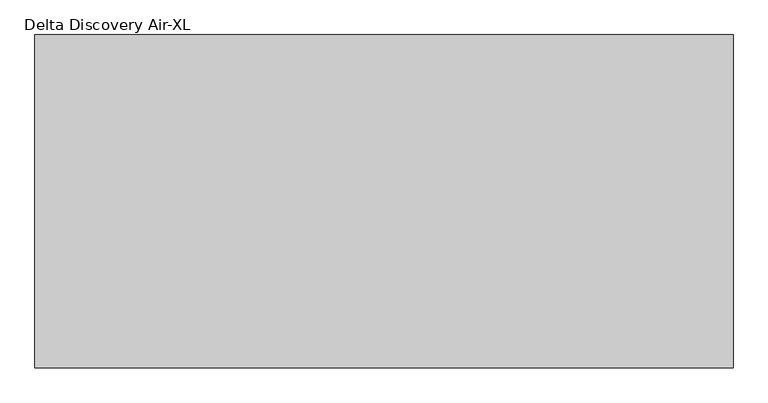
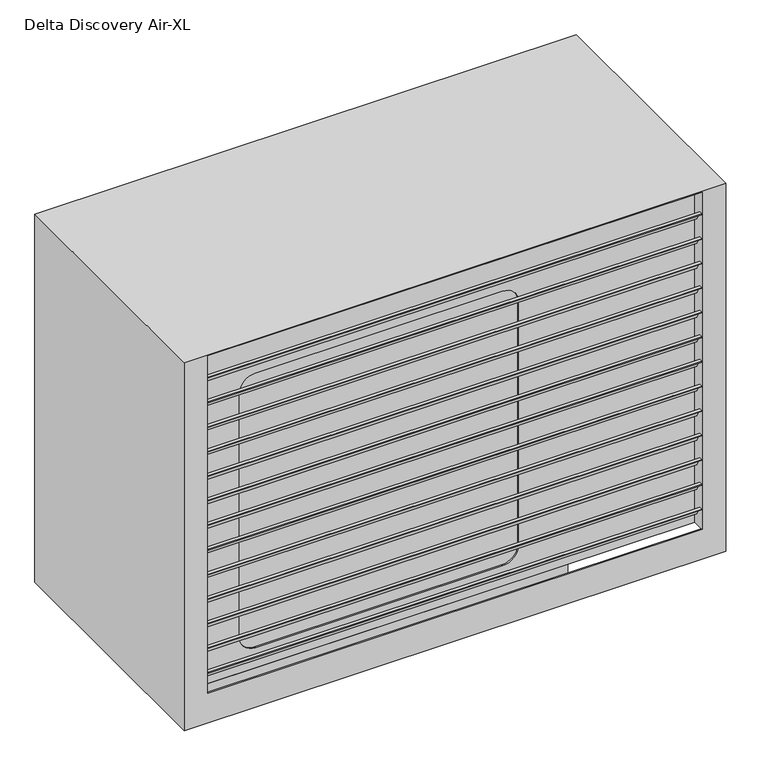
"""IFC4 building model written with IfcOpenShell, lengths in millimetres: unitary equipment geometry, MG_BPC_Delta Discovery Air_M&G : Delta Discovery Air-XL."""

from ifc_helpers import new_model, si_unit, frame, origin, place, context, project, spatial, polyline, circle_curve, outline, extrude, source, transform, mapped, element, save
from ifc_brep_helpers import plane_surface, revolved_surface, advanced_brep


def delta_discovery_air_xl_f5126de7(model_context):
    return source(origin(), model_context, "Body", "SolidModel", [
        extrude(outline(polyline([(-806.0, 1197.4118412), (-806.0, 1199.4118412), (-795.1452995, 1199.4118412), (-777.4452995, 1168.7545419), (-767.8, 1168.7545419), (-767.8, 1166.7545419), (-778.6, 1166.7545419), (-796.3, 1197.4118412), (-806.0, 1197.4118412)])), frame((-769.0, 0.0, 0.0), z_axis=(1.0, 0.0, 0.0), x_axis=(0.0, 1.0, 0.0)), (0.0, 0.0, 1.0), 1538.0),
        extrude(outline(polyline([(-806.0, 1116.3832828), (-806.0, 1118.3832828), (-795.1452995, 1118.3832828), (-777.4452995, 1087.7259835), (-767.8, 1087.7259835), (-767.8, 1085.7259835), (-778.6, 1085.7259835), (-796.3, 1116.3832828), (-806.0, 1116.3832828)])), frame((-769.0, 0.0, 0.0), z_axis=(1.0, 0.0, 0.0), x_axis=(0.0, 1.0, 0.0)), (0.0, 0.0, 1.0), 1538.0),
        extrude(outline(polyline([(-806.0, 1035.3547244), (-806.0, 1037.3547244), (-795.1452995, 1037.3547244), (-777.4452995, 1006.6974251), (-767.8, 1006.6974251), (-767.8, 1004.6974251), (-778.6, 1004.6974251), (-796.3, 1035.3547244), (-806.0, 1035.3547244)])), frame((-769.0, 0.0, 0.0), z_axis=(1.0, 0.0, 0.0), x_axis=(0.0, 1.0, 0.0)), (0.0, 0.0, 1.0), 1538.0),
        extrude(outline(polyline([(-38.2, 1197.4118412), (-38.2, 1199.4118412), (-27.3452995, 1199.4118412), (-9.6452995, 1168.7545419), (0.0, 1168.7545419), (0.0, 1166.7545419), (-10.8, 1166.7545419), (-28.5, 1197.4118412), (-38.2, 1197.4118412)])), frame((-769.0, 0.0, 0.0), z_axis=(1.0, 0.0, 0.0), x_axis=(0.0, 1.0, 0.0)), (0.0, 0.0, 1.0), 1538.0),
        extrude(outline(polyline([(-38.2, 1116.3832828), (-38.2, 1118.3832828), (-27.3452995, 1118.3832828), (-9.6452995, 1087.7259835), (0.0, 1087.7259835), (0.0, 1085.7259835), (-10.8, 1085.7259835), (-28.5, 1116.3832828), (-38.2, 1116.3832828)])), frame((-769.0, 0.0, 0.0), z_axis=(1.0, 0.0, 0.0), x_axis=(0.0, 1.0, 0.0)), (0.0, 0.0, 1.0), 1538.0),
        extrude(outline(polyline([(-38.2, 1035.3547244), (-38.2, 1037.3547244), (-27.3452995, 1037.3547244), (-9.6452995, 1006.6974251), (0.0, 1006.6974251), (0.0, 1004.6974251), (-10.8, 1004.6974251), (-28.5, 1035.3547244), (-38.2, 1035.3547244)])), frame((-769.0, 0.0, 0.0), z_axis=(1.0, 0.0, 0.0), x_axis=(0.0, 1.0, 0.0)), (0.0, 0.0, 1.0), 1538.0),
        extrude(outline(polyline([(-806.0, 954.326166), (-806.0, 956.326166), (-795.1452995, 956.326166), (-777.4452995, 925.6688667), (-767.8, 925.6688667), (-767.8, 923.6688667), (-778.6, 923.6688667), (-796.3, 954.326166), (-806.0, 954.326166)])), frame((-769.0, 0.0, 0.0), z_axis=(1.0, 0.0, 0.0), x_axis=(0.0, 1.0, 0.0)), (0.0, 0.0, 1.0), 1538.0),
        extrude(outline(polyline([(-806.0, 873.2976076), (-806.0, 875.2976076), (-795.1452995, 875.2976076), (-777.4452995, 844.6403083), (-767.8, 844.6403083), (-767.8, 842.6403083), (-778.6, 842.6403083), (-796.3, 873.2976076), (-806.0, 873.2976076)])), frame((-769.0, 0.0, 0.0), z_axis=(1.0, 0.0, 0.0), x_axis=(0.0, 1.0, 0.0)), (0.0, 0.0, 1.0), 1538.0),
        extrude(outline(polyline([(-806.0, 792.2690492), (-806.0, 794.2690492), (-795.1452995, 794.2690492), (-777.4452995, 763.6117499), (-767.8, 763.6117499), (-767.8, 761.6117499), (-778.6, 761.6117499), (-796.3, 792.2690492), (-806.0, 792.2690492)])), frame((-769.0, 0.0, 0.0), z_axis=(1.0, 0.0, 0.0), x_axis=(0.0, 1.0, 0.0)), (0.0, 0.0, 1.0), 1538.0),
        extrude(outline(polyline([(-806.0, 711.2404908), (-806.0, 713.2404908), (-795.1452995, 713.2404908), (-777.4452995, 682.5831915), (-767.8, 682.5831915), (-767.8, 680.5831915), (-778.6, 680.5831915), (-796.3, 711.2404908), (-806.0, 711.2404908)])), frame((-769.0, 0.0, 0.0), z_axis=(1.0, 0.0, 0.0), x_axis=(0.0, 1.0, 0.0)), (0.0, 0.0, 1.0), 1538.0),
        extrude(outline(polyline([(-806.0, 630.2119324), (-806.0, 632.2119324), (-795.1452995, 632.2119324), (-777.4452995, 601.5546331), (-767.8, 601.5546331), (-767.8, 599.5546331), (-778.6, 599.5546331), (-796.3, 630.2119324), (-806.0, 630.2119324)])), frame((-769.0, 0.0, 0.0), z_axis=(1.0, 0.0, 0.0), x_axis=(0.0, 1.0, 0.0)), (0.0, 0.0, 1.0), 1538.0),
        extrude(outline(polyline([(-806.0, 549.183374), (-806.0, 551.183374), (-795.1452995, 551.183374), (-777.4452995, 520.5260747), (-767.8, 520.5260747), (-767.8, 518.5260747), (-778.6, 518.5260747), (-796.3, 549.183374), (-806.0, 549.183374)])), frame((-769.0, 0.0, 0.0), z_axis=(1.0, 0.0, 0.0), x_axis=(0.0, 1.0, 0.0)), (0.0, 0.0, 1.0), 1538.0),
        extrude(outline(polyline([(-806.0, 468.1548156), (-806.0, 470.1548156), (-795.1452995, 470.1548156), (-777.4452995, 439.4975163), (-767.8, 439.4975163), (-767.8, 437.4975163), (-778.6, 437.4975163), (-796.3, 468.1548156), (-806.0, 468.1548156)])), frame((-769.0, 0.0, 0.0), z_axis=(1.0, 0.0, 0.0), x_axis=(0.0, 1.0, 0.0)), (0.0, 0.0, 1.0), 1538.0),
        extrude(outline(polyline([(-806.0, 387.1262572), (-806.0, 389.1262572), (-795.1452995, 389.1262572), (-777.4452995, 358.468958), (-767.8, 358.468958), (-767.8, 356.468958), (-778.6, 356.468958), (-796.3, 387.1262572), (-806.0, 387.1262572)])), frame((-769.0, 0.0, 0.0), z_axis=(1.0, 0.0, 0.0), x_axis=(0.0, 1.0, 0.0)), (0.0, 0.0, 1.0), 1538.0),
        extrude(outline(polyline([(-806.0, 1278.4403996), (-806.0, 1280.4403996), (-795.1452995, 1280.4403996), (-777.4452995, 1249.7831003), (-767.8, 1249.7831003), (-767.8, 1247.7831003), (-778.6, 1247.7831003), (-796.3, 1278.4403996), (-806.0, 1278.4403996)])), frame((-769.0, 0.0, 0.0), z_axis=(1.0, 0.0, 0.0), x_axis=(0.0, 1.0, 0.0)), (0.0, 0.0, 1.0), 1538.0),
        extrude(outline(polyline([(-38.2, 954.326166), (-38.2, 956.326166), (-27.3452995, 956.326166), (-9.6452995, 925.6688667), (0.0, 925.6688667), (0.0, 923.6688667), (-10.8, 923.6688667), (-28.5, 954.326166), (-38.2, 954.326166)])), frame((-769.0, 0.0, 0.0), z_axis=(1.0, 0.0, 0.0), x_axis=(0.0, 1.0, 0.0)), (0.0, 0.0, 1.0), 1538.0),
        extrude(outline(polyline([(-38.2, 873.2976076), (-38.2, 875.2976076), (-27.3452995, 875.2976076), (-9.6452995, 844.6403083), (0.0, 844.6403083), (0.0, 842.6403083), (-10.8, 842.6403083), (-28.5, 873.2976076), (-38.2, 873.2976076)])), frame((-769.0, 0.0, 0.0), z_axis=(1.0, 0.0, 0.0), x_axis=(0.0, 1.0, 0.0)), (0.0, 0.0, 1.0), 1538.0),
        extrude(outline(polyline([(-38.2, 792.2690492), (-38.2, 794.2690492), (-27.3452995, 794.2690492), (-9.6452995, 763.6117499), (0.0, 763.6117499), (0.0, 761.6117499), (-10.8, 761.6117499), (-28.5, 792.2690492), (-38.2, 792.2690492)])), frame((-769.0, 0.0, 0.0), z_axis=(1.0, 0.0, 0.0), x_axis=(0.0, 1.0, 0.0)), (0.0, 0.0, 1.0), 1538.0),
        extrude(outline(polyline([(-38.2, 711.2404908), (-38.2, 713.2404908), (-27.3452995, 713.2404908), (-9.6452995, 682.5831915), (0.0, 682.5831915), (0.0, 680.5831915), (-10.8, 680.5831915), (-28.5, 711.2404908), (-38.2, 711.2404908)])), frame((-769.0, 0.0, 0.0), z_axis=(1.0, 0.0, 0.0), x_axis=(0.0, 1.0, 0.0)), (0.0, 0.0, 1.0), 1538.0),
        extrude(outline(polyline([(-38.2, 630.2119324), (-38.2, 632.2119324), (-27.3452995, 632.2119324), (-9.6452995, 601.5546331), (0.0, 601.5546331), (0.0, 599.5546331), (-10.8, 599.5546331), (-28.5, 630.2119324), (-38.2, 630.2119324)])), frame((-769.0, 0.0, 0.0), z_axis=(1.0, 0.0, 0.0), x_axis=(0.0, 1.0, 0.0)), (0.0, 0.0, 1.0), 1538.0),
        extrude(outline(polyline([(-38.2, 549.183374), (-38.2, 551.183374), (-27.3452995, 551.183374), (-9.6452995, 520.5260747), (0.0, 520.5260747), (0.0, 518.5260747), (-10.8, 518.5260747), (-28.5, 549.183374), (-38.2, 549.183374)])), frame((-769.0, 0.0, 0.0), z_axis=(1.0, 0.0, 0.0), x_axis=(0.0, 1.0, 0.0)), (0.0, 0.0, 1.0), 1538.0),
        extrude(outline(polyline([(-38.2, 468.1548156), (-38.2, 470.1548156), (-27.3452995, 470.1548156), (-9.6452995, 439.4975163), (0.0, 439.4975163), (0.0, 437.4975163), (-10.8, 437.4975163), (-28.5, 468.1548156), (-38.2, 468.1548156)])), frame((-769.0, 0.0, 0.0), z_axis=(1.0, 0.0, 0.0), x_axis=(0.0, 1.0, 0.0)), (0.0, 0.0, 1.0), 1538.0),
        extrude(outline(polyline([(-38.2, 387.1262572), (-38.2, 389.1262572), (-27.3452995, 389.1262572), (-9.6452995, 358.468958), (0.0, 358.468958), (0.0, 356.468958), (-10.8, 356.468958), (-28.5, 387.1262572), (-38.2, 387.1262572)])), frame((-769.0, 0.0, 0.0), z_axis=(1.0, 0.0, 0.0), x_axis=(0.0, 1.0, 0.0)), (0.0, 0.0, 1.0), 1538.0),
        extrude(outline(polyline([(-38.2, 1278.4403996), (-38.2, 1280.4403996), (-27.3452995, 1280.4403996), (-9.6452995, 1249.7831003), (0.0, 1249.7831003), (0.0, 1247.7831003), (-10.8, 1247.7831003), (-28.5, 1278.4403996), (-38.2, 1278.4403996)])), frame((-769.0, 0.0, 0.0), z_axis=(1.0, 0.0, 0.0), x_axis=(0.0, 1.0, 0.0)), (0.0, 0.0, 1.0), 1538.0),
        extrude(outline(polyline([(-38.2, 306.0976989), (-38.2, 308.0976989), (-27.3452995, 308.0976989), (-9.6452995, 277.4403996), (0.0, 277.4403996), (0.0, 275.4403996), (-10.8, 275.4403996), (-28.5, 306.0976989), (-38.2, 306.0976989)])), frame((-769.0, 0.0, 0.0), z_axis=(1.0, 0.0, 0.0), x_axis=(0.0, 1.0, 0.0)), (0.0, 0.0, 1.0), 1538.0),
        extrude(outline(polyline([(-806.0, 306.0976989), (-806.0, 308.0976989), (-795.1452995, 308.0976989), (-777.4452995, 277.4403996), (-767.8, 277.4403996), (-767.8, 275.4403996), (-778.6, 275.4403996), (-796.3, 306.0976989), (-806.0, 306.0976989)])), frame((-769.0, 0.0, 0.0), z_axis=(1.0, 0.0, 0.0), x_axis=(0.0, 1.0, 0.0)), (0.0, 0.0, 1.0), 1538.0),
        extrude(outline(polyline([(379.0, -705.0), (-776.0, -705.0), (-776.0, -240.0), (379.0, -240.0), (379.0, -705.0)])), frame((0.0, 0.0, 206.4403996), z_axis=(0.0, 0.0, 1.0), x_axis=(1.0, 0.0, 0.0)), (0.0, 0.0, 1.0), 1005.0),
        extrude(outline(polyline([(-796.0, -220.0), (399.0, -220.0), (399.0, -725.0), (-796.0, -725.0), (-796.0, -220.0)])), frame((0.0, 0.0, 134.4403996), z_axis=(0.0, 0.0, 1.0), x_axis=(1.0, 0.0, 0.0)), (0.0, 0.0, 1.0), 72.0),
        advanced_brep(
        [(-844.0, 0.0, 1355.4403996), (-844.0, -806.0, 1355.4403996), (844.0, -806.0, 1355.4403996), (844.0, 0.0, 1355.4403996), (-770.0, -40.0, 240.4403996), (770.0, -40.0, 240.4403996), (770.0, -4.0, 240.4403996), (774.0, -4.0, 240.4403996), (774.0, -44.0, 240.4403996), (-774.0, -44.0, 240.4403996), (-774.0, -4.0, 240.4403996), (-770.0, -4.0, 240.4403996), (770.0, -766.0, 240.4403996), (-770.0, -766.0, 240.4403996), (-770.0, -802.0, 240.4403996), (-774.0, -802.0, 240.4403996), (-774.0, -762.0, 240.4403996), (774.0, -762.0, 240.4403996), (774.0, -802.0, 240.4403996), (770.0, -802.0, 240.4403996), (-844.0, 0.0, 142.4403996), (-844.0, -806.0, 142.4403996), (844.0, -806.0, 142.4403996), (770.0, -806.0, 1351.4403996), (770.0, -806.0, 240.4403996), (-770.0, -806.0, 240.4403996), (-770.0, -806.0, 1351.4403996), (844.0, 0.0, 142.4403996), (-770.0, -766.0, 1351.4403996), (770.0, -766.0, 1351.4403996), (-599.0, -766.0, 1210.4403996), (171.0, -766.0, 1210.4403996), (221.0, -766.0, 1160.4403996), (221.0, -766.0, 356.4403996), (171.0, -766.0, 306.4403996), (-599.0, -766.0, 306.4403996), (-649.0, -766.0, 356.4403996), (-649.0, -766.0, 1160.4403996), (770.0, 0.0, 240.4403996), (770.0, 0.0, 1351.4403996), (-770.0, 0.0, 1351.4403996), (-770.0, 0.0, 240.4403996), (770.0, -40.0, 1351.4403996), (-770.0, -40.0, 1351.4403996), (171.0, -40.0, 1210.4403996), (-599.0, -40.0, 1210.4403996), (-649.0, -40.0, 1160.4403996), (-649.0, -40.0, 356.4403996), (-599.0, -40.0, 306.4403996), (171.0, -40.0, 306.4403996), (221.0, -40.0, 356.4403996), (221.0, -40.0, 1160.4403996), (-840.0, -802.0, 142.4403996), (-840.0, -4.0, 142.4403996), (-840.0, -4.0, 1351.4403996), (-840.0, -802.0, 1351.4403996), (840.0, -4.0, 142.4403996), (840.0, -4.0, 1351.4403996), (774.0, -4.0, 1351.4403996), (-774.0, -4.0, 1351.4403996), (-774.0, -44.0, 1351.4403996), (774.0, -44.0, 1351.4403996), (-599.0, -44.0, 1210.4403996), (171.0, -44.0, 1210.4403996), (221.0, -44.0, 1160.4403996), (221.0, -44.0, 356.4403996), (171.0, -44.0, 306.4403996), (-599.0, -44.0, 306.4403996), (-649.0, -44.0, 356.4403996), (-649.0, -44.0, 1160.4403996), (840.0, -802.0, 142.4403996), (840.0, -802.0, 1351.4403996), (-774.0, -802.0, 1351.4403996), (774.0, -802.0, 1351.4403996), (774.0, -762.0, 1351.4403996), (-774.0, -762.0, 1351.4403996), (171.0, -762.0, 1210.4403996), (-599.0, -762.0, 1210.4403996), (-649.0, -762.0, 1160.4403996), (-649.0, -762.0, 356.4403996), (-599.0, -762.0, 306.4403996), (171.0, -762.0, 306.4403996), (221.0, -762.0, 356.4403996), (221.0, -762.0, 1160.4403996)],
        [
            (0, 1),
            (1, 2),
            (2, 3),
            (3, 0),
            (4, 5),
            (5, 6),
            (6, 7),
            (7, 8),
            (8, 9),
            (9, 10),
            (10, 11),
            (11, 4),
            (12, 13),
            (13, 14),
            (14, 15),
            (15, 16),
            (16, 17),
            (17, 18),
            (18, 19),
            (19, 12),
            (0, 20),
            (20, 21),
            (21, 1),
            (21, 22),
            (22, 2),
            (23, 24),
            (24, 25),
            (25, 26),
            (26, 23),
            (22, 27),
            (27, 3),
            (25, 14),
            (13, 28),
            (28, 26),
            (12, 29),
            (29, 28),
            (30, 31),
            (31, 32, circle_curve(frame((171.0, -766.0, 1160.4403996), z_axis=(0.0, 1.0, 0.0), x_axis=(1.0, 0.0, 0.0)), 50.0)),
            (32, 33),
            (33, 34, circle_curve(frame((171.0, -766.0, 356.4403996), z_axis=(0.0, 1.0, 0.0), x_axis=(1.0, 0.0, 0.0)), 50.0)),
            (34, 35),
            (35, 36, circle_curve(frame((-599.0, -766.0, 356.4403996), z_axis=(0.0, 1.0, 0.0), x_axis=(1.0, 0.0, 0.0)), 50.0)),
            (36, 37),
            (37, 30, circle_curve(frame((-599.0, -766.0, 1160.4403996), z_axis=(0.0, 1.0, 0.0), x_axis=(1.0, 0.0, 0.0)), 50.0)),
            (23, 29),
            (19, 24),
            (27, 20),
            (38, 39),
            (39, 40),
            (40, 41),
            (41, 38),
            (38, 6),
            (5, 42),
            (42, 39),
            (4, 43),
            (43, 42),
            (44, 45),
            (45, 46, circle_curve(frame((-599.0, -40.0, 1160.4403996), z_axis=(0.0, -1.0, 0.0), x_axis=(1.0, 0.0, 0.0)), 50.0)),
            (46, 47),
            (47, 48, circle_curve(frame((-599.0, -40.0, 356.4403996), z_axis=(0.0, -1.0, 0.0), x_axis=(1.0, 0.0, 0.0)), 50.0)),
            (48, 49),
            (49, 50, circle_curve(frame((171.0, -40.0, 356.4403996), z_axis=(0.0, -1.0, 0.0), x_axis=(1.0, 0.0, 0.0)), 50.0)),
            (50, 51),
            (51, 44, circle_curve(frame((171.0, -40.0, 1160.4403996), z_axis=(0.0, -1.0, 0.0), x_axis=(1.0, 0.0, 0.0)), 50.0)),
            (11, 41),
            (40, 43),
            (52, 53),
            (53, 54),
            (54, 55),
            (55, 52),
            (53, 56),
            (56, 57),
            (57, 58),
            (58, 7),
            (6, 11),
            (10, 59),
            (59, 54),
            (9, 60),
            (60, 59),
            (8, 61),
            (61, 60),
            (62, 63),
            (63, 64, circle_curve(frame((171.0, -44.0, 1160.4403996), z_axis=(0.0, 1.0, 0.0), x_axis=(1.0, 0.0, 0.0)), 50.0)),
            (64, 65),
            (65, 66, circle_curve(frame((171.0, -44.0, 356.4403996), z_axis=(0.0, 1.0, 0.0), x_axis=(1.0, 0.0, 0.0)), 50.0)),
            (66, 67),
            (67, 68, circle_curve(frame((-599.0, -44.0, 356.4403996), z_axis=(0.0, 1.0, 0.0), x_axis=(1.0, 0.0, 0.0)), 50.0)),
            (68, 69),
            (69, 62, circle_curve(frame((-599.0, -44.0, 1160.4403996), z_axis=(0.0, 1.0, 0.0), x_axis=(1.0, 0.0, 0.0)), 50.0)),
            (58, 61),
            (56, 70),
            (70, 71),
            (71, 57),
            (70, 52),
            (55, 72),
            (72, 15),
            (14, 19),
            (18, 73),
            (73, 71),
            (17, 74),
            (74, 73),
            (16, 75),
            (75, 74),
            (76, 77),
            (77, 78, circle_curve(frame((-599.0, -762.0, 1160.4403996), z_axis=(0.0, -1.0, 0.0), x_axis=(1.0, 0.0, 0.0)), 50.0)),
            (78, 79),
            (79, 80, circle_curve(frame((-599.0, -762.0, 356.4403996), z_axis=(0.0, -1.0, 0.0), x_axis=(1.0, 0.0, 0.0)), 50.0)),
            (80, 81),
            (81, 82, circle_curve(frame((171.0, -762.0, 356.4403996), z_axis=(0.0, -1.0, 0.0), x_axis=(1.0, 0.0, 0.0)), 50.0)),
            (82, 83),
            (83, 76, circle_curve(frame((171.0, -762.0, 1160.4403996), z_axis=(0.0, -1.0, 0.0), x_axis=(1.0, 0.0, 0.0)), 50.0)),
            (72, 75),
            (44, 63),
            (62, 45),
            (76, 31),
            (30, 77),
            (69, 46),
            (37, 78),
            (68, 47),
            (36, 79),
            (67, 48),
            (35, 80),
            (66, 49),
            (34, 81),
            (65, 50),
            (33, 82),
            (64, 51),
            (32, 83),
        ],
        [
            plane_surface(frame((-844.0, -806.0, 1355.4403996), z_axis=(0.0, 0.0, 1.0), x_axis=(0.0, -1.0, 0.0))),
            plane_surface(frame((-844.0, -806.0, 240.4403996), z_axis=(0.0, 0.0, -1.0), x_axis=(0.0, 1.0, 0.0))),
            plane_surface(frame((-844.0, 0.0, 1355.4403996), z_axis=(-1.0, 0.0, 0.0), x_axis=(0.0, 0.0, -1.0))),
            plane_surface(frame((770.0, -806.0, 1355.4403996), z_axis=(0.0, -1.0, 0.0), x_axis=(0.0, 0.0, -1.0))),
            plane_surface(frame((844.0, -806.0, 1355.4403996), z_axis=(1.0, 0.0, 0.0), x_axis=(0.0, 0.0, -1.0))),
            plane_surface(frame((-770.0, -806.0, 1355.4403996), z_axis=(1.0, 0.0, 0.0), x_axis=(0.0, 0.0, -1.0))),
            plane_surface(frame((-770.0, -766.0, 1355.4403996), z_axis=(0.0, -1.0, 0.0), x_axis=(0.0, 0.0, -1.0))),
            plane_surface(frame((770.0, -766.0, 1355.4403996), z_axis=(-1.0, 0.0, 0.0), x_axis=(0.0, 0.0, -1.0))),
            plane_surface(frame((844.0, 0.0, 1355.4403996), z_axis=(0.0, 1.0, 0.0), x_axis=(0.0, 0.0, -1.0))),
            plane_surface(frame((770.0, 0.0, 1355.4403996), z_axis=(-1.0, 0.0, 0.0), x_axis=(0.0, 0.0, -1.0))),
            plane_surface(frame((770.0, -40.0, 1355.4403996), z_axis=(0.0, 1.0, 0.0), x_axis=(0.0, 0.0, -1.0))),
            plane_surface(frame((-770.0, -40.0, 1355.4403996), z_axis=(1.0, 0.0, 0.0), x_axis=(0.0, 0.0, -1.0))),
            plane_surface(frame((-840.0, -802.0, 1355.4403996), z_axis=(1.0, 0.0, 0.0), x_axis=(0.0, 0.0, -1.0))),
            plane_surface(frame((-840.0, -4.0, 1355.4403996), z_axis=(0.0, -1.0, 0.0), x_axis=(0.0, 0.0, -1.0))),
            plane_surface(frame((-774.0, -4.0, 1355.4403996), z_axis=(-1.0, 0.0, 0.0), x_axis=(0.0, 0.0, -1.0))),
            plane_surface(frame((-774.0, -44.0, 1355.4403996), z_axis=(0.0, -1.0, 0.0), x_axis=(0.0, 0.0, -1.0))),
            plane_surface(frame((774.0, -44.0, 1355.4403996), z_axis=(1.0, 0.0, 0.0), x_axis=(0.0, 0.0, -1.0))),
            plane_surface(frame((840.0, -4.0, 1355.4403996), z_axis=(-1.0, 0.0, 0.0), x_axis=(0.0, 0.0, -1.0))),
            plane_surface(frame((840.0, -802.0, 1355.4403996), z_axis=(0.0, 1.0, 0.0), x_axis=(0.0, 0.0, -1.0))),
            plane_surface(frame((774.0, -802.0, 1355.4403996), z_axis=(1.0, 0.0, 0.0), x_axis=(0.0, 0.0, -1.0))),
            plane_surface(frame((774.0, -762.0, 1355.4403996), z_axis=(0.0, 1.0, 0.0), x_axis=(0.0, 0.0, -1.0))),
            plane_surface(frame((-774.0, -762.0, 1355.4403996), z_axis=(-1.0, 0.0, 0.0), x_axis=(0.0, 0.0, -1.0))),
            plane_surface(frame((171.0, -973.4559026, 1210.4403996), z_axis=(0.0, 0.0, -1.0), x_axis=(0.0, 1.0, 0.0))),
            revolved_surface(polyline([(-549.0, -44.0, 1160.4403996), (-549.0, -40.0, 1160.4403996)]), (-599.0, 100.0, 1160.4403996), (0.0, -1.0, 0.0)),
            revolved_surface(polyline([(-549.0, -766.0, 1160.4403996), (-549.0, -762.0, 1160.4403996)]), (-599.0, 100.0, 1160.4403996), (0.0, -1.0, 0.0)),
            plane_surface(frame((-649.0, -973.4559026, 1160.4403996), z_axis=(1.0, 0.0, 0.0), x_axis=(0.0, 1.0, 0.0))),
            revolved_surface(polyline([(-549.0, -44.0, 356.4403996), (-549.0, -40.0, 356.4403996)]), (-599.0, 100.0, 356.4403996), (0.0, -1.0, 0.0)),
            revolved_surface(polyline([(-549.0, -766.0, 356.4403996), (-549.0, -762.0, 356.4403996)]), (-599.0, 100.0, 356.4403996), (0.0, -1.0, 0.0)),
            plane_surface(frame((-599.0, -973.4559026, 306.4403996), z_axis=(0.0, 0.0, 1.0), x_axis=(0.0, 1.0, 0.0))),
            revolved_surface(polyline([(221.0, -44.0, 356.4403996), (221.0, -40.0, 356.4403996)]), (171.0, 100.0, 356.4403996), (0.0, -1.0, 0.0)),
            revolved_surface(polyline([(221.0, -766.0, 356.4403996), (221.0, -762.0, 356.4403996)]), (171.0, 100.0, 356.4403996), (0.0, -1.0, 0.0)),
            plane_surface(frame((221.0, -973.4559026, 356.4403996), z_axis=(-1.0, 0.0, 0.0), x_axis=(0.0, 1.0, 0.0))),
            revolved_surface(polyline([(221.0, -44.0, 1160.4403996), (221.0, -40.0, 1160.4403996)]), (171.0, 100.0, 1160.4403996), (0.0, -1.0, 0.0)),
            revolved_surface(polyline([(221.0, -766.0, 1160.4403996), (221.0, -762.0, 1160.4403996)]), (171.0, 100.0, 1160.4403996), (0.0, -1.0, 0.0)),
            plane_surface(frame((-844.0, 0.0, 1351.4403996), z_axis=(0.0, 0.0, -1.0), x_axis=(1.0, 0.0, 0.0))),
            plane_surface(frame((-844.0, -806.0, 142.4403996), z_axis=(0.0, 0.0, -1.0), x_axis=(0.0, 1.0, 0.0))),
            plane_surface(frame((-844.0, -806.0, 240.4403996), z_axis=(0.0, 0.0, 1.0), x_axis=(0.0, -1.0, 0.0))),
        ],
        [
            (0, [[1, 2, 3, 4]]),
            (1, [[5, 6, 7, 8, 9, 10, 11, 12]]),
            (1, [[13, 14, 15, 16, 17, 18, 19, 20]]),
            (2, [[-1, 21, 22, 23]]),
            (3, [[-23, 24, 25, -2], [26, 27, 28, 29]]),
            (4, [[-3, -25, 30, 31]]),
            (5, [[-28, 32, -14, 33, 34]]),
            (6, [[-13, 35, 36, -33], [37, 38, 39, 40, 41, 42, 43, 44]]),
            (7, [[-26, 45, -35, -20, 46]]),
            (8, [[-31, 47, -21, -4], [48, 49, 50, 51]]),
            (9, [[-48, 52, -6, 53, 54]]),
            (10, [[-5, 55, 56, -53], [57, 58, 59, 60, 61, 62, 63, 64]]),
            (11, [[-55, -12, 65, -50, 66]]),
            (12, [[67, 68, 69, 70]]),
            (13, [[-68, 71, 72, 73, 74, -7, 75, -11, 76, 77]]),
            (14, [[-10, 78, 79, -76]]),
            (15, [[-9, 80, 81, -78], [82, 83, 84, 85, 86, 87, 88, 89]]),
            (16, [[-8, -74, 90, -80]]),
            (17, [[-72, 91, 92, 93]]),
            (18, [[-92, 94, -70, 95, 96, -15, 97, -19, 98, 99]]),
            (19, [[-18, 100, 101, -98]]),
            (20, [[-17, 102, 103, -100], [104, 105, 106, 107, 108, 109, 110, 111]]),
            (21, [[-16, -96, 112, -102]]),
            (22, [[113, -82, 114, -57]]),
            (22, [[115, -37, 116, -104]]),
            (23, [[-114, -89, 117, -58]]),
            (24, [[-116, -44, 118, -105]]),
            (25, [[-117, -88, 119, -59]]),
            (25, [[-118, -43, 120, -106]]),
            (26, [[-119, -87, 121, -60]]),
            (27, [[-120, -42, 122, -107]]),
            (28, [[-121, -86, 123, -61]]),
            (28, [[-122, -41, 124, -108]]),
            (29, [[-123, -85, 125, -62]]),
            (30, [[-124, -40, 126, -109]]),
            (31, [[-125, -84, 127, -63]]),
            (31, [[-126, -39, 128, -110]]),
            (32, [[-113, -64, -127, -83]]),
            (33, [[-115, -111, -128, -38]]),
            (34, [[-29, -34, -36, -45]]),
            (34, [[-49, -54, -56, -66]]),
            (34, [[-69, -77, -79, -81, -90, -73, -93, -99, -101, -103, -112, -95]]),
            (35, [[-47, -30, -24, -22], [-94, -91, -71, -67]]),
            (36, [[-27, -46, -97, -32]]),
            (36, [[-51, -65, -75, -52]]),
        ],
    ),
    ])


if __name__ == "__main__":
    model = new_model("IFC4")
    model_context = context("Model", 3, world=origin())
    ifc_project = project(units=[si_unit("LENGTHUNIT", "METRE", prefix="MILLI")], contexts=[model_context])
    site = spatial("IfcSite", under=ifc_project)
    building = spatial("IfcBuilding", under=site)
    placement = place(None, origin())
    delta_discovery_air_xl_shape = delta_discovery_air_xl_f5126de7(model_context)
    element("IfcUnitaryEquipment", 1, ObjectType="MG_BPC_Delta Discovery Air_M&G : Delta Discovery Air-XL", at=placement, inside=building, context=model_context, shape_type="MappedRepresentation", body=[
        mapped(delta_discovery_air_xl_shape, transform((0.0, 0.0, 0.0), x_axis=(1.0, 0.0, 0.0), y_axis=(0.0, 1.0, 0.0), z_axis=(0.0, 0.0, 1.0))),
    ])
    save(model, "model.ifc")
